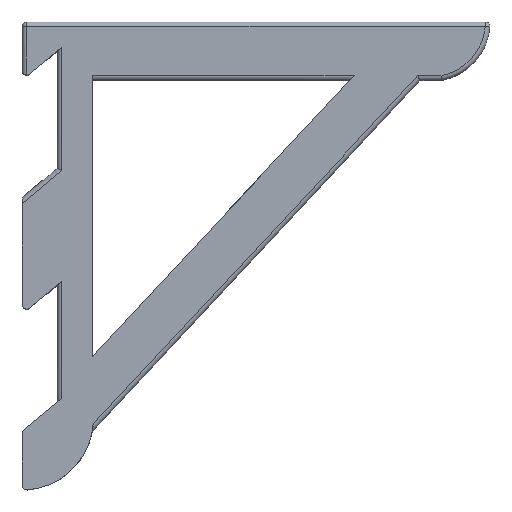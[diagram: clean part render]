
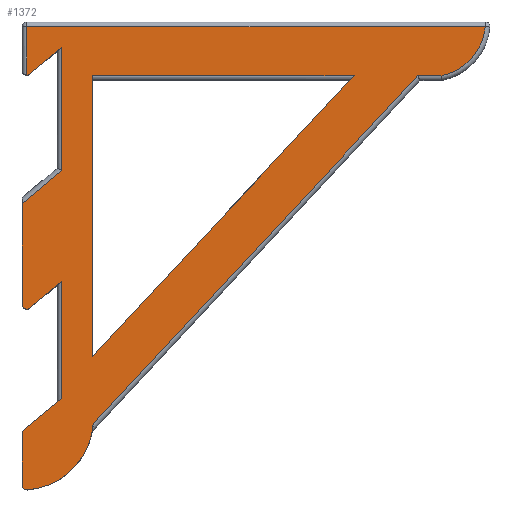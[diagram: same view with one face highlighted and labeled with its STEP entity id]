
A CAD part, top view. The second image highlights one B-rep face of the part: STEP entity #1372.
In plain terms, the highlighted planar face has unit normal (0, 0, 1).
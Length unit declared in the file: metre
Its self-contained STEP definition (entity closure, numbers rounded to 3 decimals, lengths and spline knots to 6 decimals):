
#107=CIRCLE('',#1464,0.019368);
#110=CIRCLE('',#1485,0.00127);
#111=CIRCLE('',#1486,0.00127);
#112=CIRCLE('',#1487,0.00127);
#113=CIRCLE('',#1488,0.01487);
#114=CIRCLE('',#1489,0.00127);
#263=ORIENTED_EDGE('',*,*,#645,.F.);
#264=ORIENTED_EDGE('',*,*,#671,.T.);
#265=ORIENTED_EDGE('',*,*,#672,.T.);
#266=ORIENTED_EDGE('',*,*,#582,.F.);
#267=ORIENTED_EDGE('',*,*,#673,.T.);
#268=ORIENTED_EDGE('',*,*,#656,.F.);
#269=ORIENTED_EDGE('',*,*,#674,.T.);
#270=ORIENTED_EDGE('',*,*,#662,.F.);
#271=ORIENTED_EDGE('',*,*,#675,.T.);
#272=ORIENTED_EDGE('',*,*,#664,.F.);
#273=ORIENTED_EDGE('',*,*,#676,.T.);
#274=ORIENTED_EDGE('',*,*,#623,.T.);
#275=ORIENTED_EDGE('',*,*,#677,.T.);
#276=ORIENTED_EDGE('',*,*,#678,.T.);
#277=ORIENTED_EDGE('',*,*,#679,.T.);
#278=ORIENTED_EDGE('',*,*,#680,.T.);
#279=ORIENTED_EDGE('',*,*,#681,.T.);
#280=ORIENTED_EDGE('',*,*,#682,.T.);
#281=ORIENTED_EDGE('',*,*,#683,.T.);
#282=ORIENTED_EDGE('',*,*,#669,.F.);
#283=ORIENTED_EDGE('',*,*,#615,.F.);
#582=EDGE_CURVE('',#791,#792,#917,.T.);
#615=EDGE_CURVE('',#824,#820,#932,.T.);
#623=EDGE_CURVE('',#827,#831,#107,.T.);
#645=EDGE_CURVE('',#850,#846,#956,.T.);
#656=EDGE_CURVE('',#859,#855,#966,.T.);
#662=EDGE_CURVE('',#863,#864,#972,.T.);
#664=EDGE_CURVE('',#865,#866,#973,.T.);
#669=EDGE_CURVE('',#820,#869,#978,.T.);
#671=EDGE_CURVE('',#850,#870,#979,.T.);
#672=EDGE_CURVE('',#870,#792,#980,.F.);
#673=EDGE_CURVE('',#791,#855,#110,.T.);
#674=EDGE_CURVE('',#859,#864,#981,.F.);
#675=EDGE_CURVE('',#863,#866,#111,.T.);
#676=EDGE_CURVE('',#865,#827,#112,.T.);
#677=EDGE_CURVE('',#831,#871,#982,.F.);
#678=EDGE_CURVE('',#871,#872,#983,.T.);
#679=EDGE_CURVE('',#872,#873,#113,.T.);
#680=EDGE_CURVE('',#873,#874,#984,.F.);
#681=EDGE_CURVE('',#874,#875,#985,.F.);
#682=EDGE_CURVE('',#875,#846,#114,.T.);
#683=EDGE_CURVE('',#824,#869,#986,.T.);
#791=VERTEX_POINT('',#1981);
#792=VERTEX_POINT('',#1982);
#820=VERTEX_POINT('',#2066);
#824=VERTEX_POINT('',#2073);
#827=VERTEX_POINT('',#2083);
#831=VERTEX_POINT('',#2095);
#846=VERTEX_POINT('',#2135);
#850=VERTEX_POINT('',#2142);
#855=VERTEX_POINT('',#2158);
#859=VERTEX_POINT('',#2165);
#863=VERTEX_POINT('',#2177);
#864=VERTEX_POINT('',#2179);
#865=VERTEX_POINT('',#2183);
#866=VERTEX_POINT('',#2184);
#869=VERTEX_POINT('',#2193);
#870=VERTEX_POINT('',#2197);
#871=VERTEX_POINT('',#2204);
#872=VERTEX_POINT('',#2206);
#873=VERTEX_POINT('',#2208);
#874=VERTEX_POINT('',#2210);
#875=VERTEX_POINT('',#2212);
#917=LINE('',#1980,#1034);
#932=LINE('',#2074,#1049);
#956=LINE('',#2143,#1073);
#966=LINE('',#2166,#1083);
#972=LINE('',#2178,#1089);
#973=LINE('',#2182,#1090);
#978=LINE('',#2192,#1095);
#979=LINE('',#2196,#1096);
#980=LINE('',#2198,#1097);
#981=LINE('',#2200,#1098);
#982=LINE('',#2203,#1099);
#983=LINE('',#2205,#1100);
#984=LINE('',#2209,#1101);
#985=LINE('',#2211,#1102);
#986=LINE('',#2214,#1103);
#1034=VECTOR('',#1593,1.);
#1049=VECTOR('',#1620,1.);
#1073=VECTOR('',#1670,1.);
#1083=VECTOR('',#1688,1.);
#1089=VECTOR('',#1698,1.);
#1090=VECTOR('',#1703,1.);
#1095=VECTOR('',#1710,1.);
#1096=VECTOR('',#1715,1.);
#1097=VECTOR('',#1716,1.);
#1098=VECTOR('',#1719,1.);
#1099=VECTOR('',#1724,1.);
#1100=VECTOR('',#1725,1.);
#1101=VECTOR('',#1728,1.);
#1102=VECTOR('',#1729,1.);
#1103=VECTOR('',#1732,1.);
#1169=EDGE_LOOP('',(#263,#264,#265,#266,#267,#268,#269,#270,#271,#272,#273,
#274,#275,#276,#277,#278,#279,#280));
#1170=EDGE_LOOP('',(#281,#282,#283));
#1258=FACE_BOUND('',#1169,.T.);
#1259=FACE_BOUND('',#1170,.T.);
#1344=PLANE('',#1484);
#1372=ADVANCED_FACE('',(#1258,#1259),#1344,.T.);
#1464=AXIS2_PLACEMENT_3D('',#2096,#1632,#1633);
#1484=AXIS2_PLACEMENT_3D('',#2195,#1713,#1714);
#1485=AXIS2_PLACEMENT_3D('',#2199,#1717,#1718);
#1486=AXIS2_PLACEMENT_3D('',#2201,#1720,#1721);
#1487=AXIS2_PLACEMENT_3D('',#2202,#1722,#1723);
#1488=AXIS2_PLACEMENT_3D('',#2207,#1726,#1727);
#1489=AXIS2_PLACEMENT_3D('',#2213,#1730,#1731);
#1593=DIRECTION('',(0.,1.,0.));
#1620=DIRECTION('',(0.,-1.,0.));
#1632=DIRECTION('',(0.,0.,1.));
#1633=DIRECTION('',(1.,0.,0.));
#1670=DIRECTION('',(-0.768,-0.64,0.));
#1688=DIRECTION('',(-0.768,-0.64,0.));
#1698=DIRECTION('',(0.768,0.64,0.));
#1703=DIRECTION('',(0.,1.,0.));
#1710=DIRECTION('',(0.682,0.731,0.));
#1713=DIRECTION('',(0.,0.,1.));
#1714=DIRECTION('',(1.,0.,0.));
#1715=DIRECTION('',(0.,-1.,0.));
#1716=DIRECTION('',(0.768,0.64,0.));
#1717=DIRECTION('',(0.,0.,1.));
#1718=DIRECTION('',(1.,0.,0.));
#1719=DIRECTION('',(0.,1.,0.));
#1720=DIRECTION('',(0.,0.,1.));
#1721=DIRECTION('',(1.,0.,0.));
#1722=DIRECTION('',(0.,0.,1.));
#1723=DIRECTION('',(1.,0.,0.));
#1724=DIRECTION('',(-0.682,-0.731,0.));
#1725=DIRECTION('',(1.,0.,0.));
#1726=DIRECTION('',(0.,0.,1.));
#1727=DIRECTION('',(1.,0.,0.));
#1728=DIRECTION('',(1.,0.,0.));
#1729=DIRECTION('',(0.,1.,0.));
#1730=DIRECTION('',(0.,0.,1.));
#1731=DIRECTION('',(1.,0.,0.));
#1732=DIRECTION('',(1.,0.,0.));
#1980=CARTESIAN_POINT('',(-0.009525,0.003969,0.01905));
#1981=CARTESIAN_POINT('',(-0.009525,-0.013163,0.01905));
#1982=CARTESIAN_POINT('',(-0.009525,0.014222,0.01905));
#2066=CARTESIAN_POINT('',(0.009525,-0.027214,0.01905));
#2073=CARTESIAN_POINT('',(0.009525,0.048895,0.01905));
#2074=CARTESIAN_POINT('',(0.009525,-0.013607,0.01905));
#2083=CARTESIAN_POINT('',(-0.008166,-0.063452,0.01905));
#2095=CARTESIAN_POINT('',(0.009796,-0.045473,0.01905));
#2096=CARTESIAN_POINT('',(-0.009525,-0.044133,0.01905));
#2135=CARTESIAN_POINT('',(-0.007442,0.049361,0.01905));
#2142=CARTESIAN_POINT('',(0.00127,0.056621,0.01905));
#2143=CARTESIAN_POINT('',(-0.004763,0.051594,0.01905));
#2158=CARTESIAN_POINT('',(-0.007442,-0.014139,0.01905));
#2165=CARTESIAN_POINT('',(0.00127,-0.006879,0.01905));
#2166=CARTESIAN_POINT('',(-0.004763,-0.011906,0.01905));
#2177=CARTESIAN_POINT('',(-0.009068,-0.047244,0.01905));
#2178=CARTESIAN_POINT('',(-0.004762,-0.043656,0.01905));
#2179=CARTESIAN_POINT('',(0.00127,-0.038629,0.01905));
#2182=CARTESIAN_POINT('',(-0.009525,-0.055563,0.01905));
#2183=CARTESIAN_POINT('',(-0.009525,-0.062185,0.01905));
#2184=CARTESIAN_POINT('',(-0.009525,-0.04822,0.01905));
#2192=CARTESIAN_POINT('',(0.04445,0.010205,0.01905));
#2193=CARTESIAN_POINT('',(0.08056,0.048895,0.01905));
#2195=CARTESIAN_POINT('',(0.053975,0.,0.01905));
#2196=CARTESIAN_POINT('',(0.00127,0.023813,0.01905));
#2197=CARTESIAN_POINT('',(0.00127,0.023218,0.01905));
#2198=CARTESIAN_POINT('',(0.020956,0.039623,0.01905));
#2199=CARTESIAN_POINT('',(-0.008255,-0.013163,0.01905));
#2200=CARTESIAN_POINT('',(0.00127,0.,0.01905));
#2201=CARTESIAN_POINT('',(-0.008255,-0.04822,0.01905));
#2202=CARTESIAN_POINT('',(-0.008255,-0.062185,0.01905));
#2203=CARTESIAN_POINT('',(0.053047,0.000867,0.01905));
#2204=CARTESIAN_POINT('',(0.097873,0.048895,0.01905));
#2205=CARTESIAN_POINT('',(0.104246,0.048895,0.01905));
#2206=CARTESIAN_POINT('',(0.104128,0.048895,0.01905));
#2207=CARTESIAN_POINT('',(0.101335,0.0635,0.01905));
#2208=CARTESIAN_POINT('',(0.116151,0.06223,0.01905));
#2209=CARTESIAN_POINT('',(0.053975,0.06223,0.01905));
#2210=CARTESIAN_POINT('',(-0.008255,0.06223,0.01905));
#2211=CARTESIAN_POINT('',(-0.008255,0.,0.01905));
#2212=CARTESIAN_POINT('',(-0.008255,0.049067,0.01905));
#2213=CARTESIAN_POINT('',(-0.008255,0.050337,0.01905));
#2214=CARTESIAN_POINT('',(0.079375,0.048895,0.01905));
